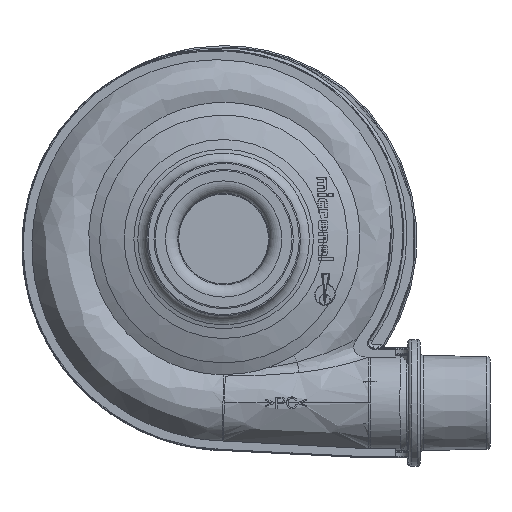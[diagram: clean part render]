
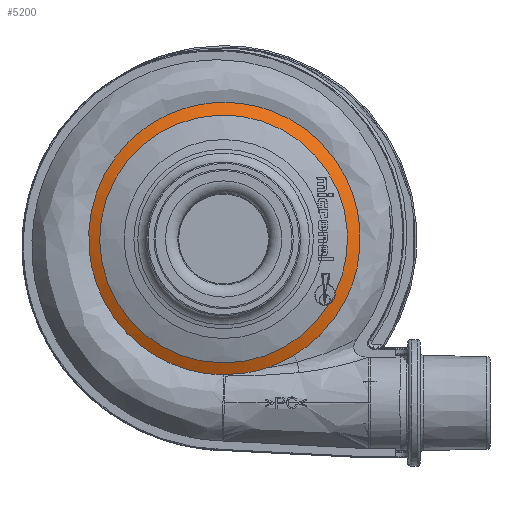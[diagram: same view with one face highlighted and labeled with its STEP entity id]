
A CAD part, left-side view. The second image highlights one B-rep face of the part: STEP entity #5200.
In plain terms, the highlighted conical face has half-angle 64.526 degrees and reference radius 19.542 mm.
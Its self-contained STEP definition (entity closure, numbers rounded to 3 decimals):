
#4299=CONICAL_SURFACE('',#13608,19.542,64.526);
#5200=ADVANCED_FACE('',(#6249,#6250),#4299,.T.);
#5862=B_SPLINE_CURVE_WITH_KNOTS('',3,(#17494,#17495,#17496,#17497,#17498,
#17499,#17500,#17501,#17502,#17503,#17504,#17505,#17506,#17507,#17508,#17509,
#17510,#17511,#17512,#17513,#17514,#17515,#17516,#17517,#17518,#17519,#17520,
#17521,#17522,#17523,#17524,#17525),.UNSPECIFIED.,.F.,.F.,(4,2,2,2,2,2,
2,1,1,2,2,2,2,2,2,2,4),(0.,0.125,0.25,0.375,
0.438,0.469,0.484,0.492,
0.496,0.498,0.5,0.625,
0.75,0.813,0.875,0.938,
1.),.UNSPECIFIED.);
#5923=B_SPLINE_CURVE_WITH_KNOTS('',3,(#18736,#18737,#18738,#18739),
 .UNSPECIFIED.,.F.,.F.,(4,4),(0.,1.),.UNSPECIFIED.);
#5926=B_SPLINE_CURVE_WITH_KNOTS('',3,(#18823,#18824,#18825,#18826),
 .UNSPECIFIED.,.F.,.F.,(4,4),(0.,1.),.UNSPECIFIED.);
#5927=B_SPLINE_CURVE_WITH_KNOTS('',3,(#18827,#18828,#18829,#18830,#18831,
#18832,#18833,#18834,#18835,#18836,#18837,#18838,#18839,#18840),
 .UNSPECIFIED.,.F.,.F.,(4,2,2,2,2,2,4),(0.,0.25,0.375,0.438,0.469,0.5,
1.),.UNSPECIFIED.);
#6249=FACE_BOUND('',#6424,.T.);
#6250=FACE_BOUND('',#6425,.T.);
#6424=EDGE_LOOP('',(#8041,#8042));
#6425=EDGE_LOOP('',(#8043,#8044,#8045));
#8041=ORIENTED_EDGE('',*,*,#11629,.T.);
#8042=ORIENTED_EDGE('',*,*,#11702,.T.);
#8043=ORIENTED_EDGE('',*,*,#11539,.F.);
#8044=ORIENTED_EDGE('',*,*,#11703,.T.);
#8045=ORIENTED_EDGE('',*,*,#11698,.T.);
#10642=VERTEX_POINT('',#17493);
#10643=VERTEX_POINT('',#17526);
#10717=VERTEX_POINT('',#18484);
#10718=VERTEX_POINT('',#18486);
#10778=VERTEX_POINT('',#18740);
#11539=EDGE_CURVE('',#10642,#10643,#5862,.T.);
#11629=EDGE_CURVE('',#10718,#10717,#12943,.T.);
#11698=EDGE_CURVE('',#10778,#10643,#5923,.T.);
#11702=EDGE_CURVE('',#10717,#10718,#5926,.T.);
#11703=EDGE_CURVE('',#10642,#10778,#5927,.T.);
#12943=CIRCLE('',#13562,19.542);
#13562=AXIS2_PLACEMENT_3D('',#18485,#14751,#14752);
#13608=AXIS2_PLACEMENT_3D('',#18841,#14854,#14855);
#14751=DIRECTION('',(1.,0.,0.));
#14752=DIRECTION('',(0.,0.,1.));
#14854=DIRECTION('',(1.,0.,0.));
#14855=DIRECTION('',(0.,0.,1.));
#17493=CARTESIAN_POINT('',(-7.296,0.232,-21.431));
#17494=CARTESIAN_POINT('',(-7.296,0.232,-21.431));
#17495=CARTESIAN_POINT('',(-7.313,4.916,-21.346));
#17496=CARTESIAN_POINT('',(-7.333,9.633,-19.623));
#17497=CARTESIAN_POINT('',(-7.37,17.165,-13.467));
#17498=CARTESIAN_POINT('',(-7.389,19.923,-8.98));
#17499=CARTESIAN_POINT('',(-7.404,21.857,1.018));
#17500=CARTESIAN_POINT('',(-7.388,20.993,6.51));
#17501=CARTESIAN_POINT('',(-7.337,16.875,13.423));
#17502=CARTESIAN_POINT('',(-7.318,15.041,15.497));
#17503=CARTESIAN_POINT('',(-7.291,11.754,18.007));
#17504=CARTESIAN_POINT('',(-7.283,10.569,18.742));
#17505=CARTESIAN_POINT('',(-7.272,8.687,19.666));
#17506=CARTESIAN_POINT('',(-7.268,8.042,19.945));
#17507=CARTESIAN_POINT('',(-7.264,7.053,20.314));
#17508=CARTESIAN_POINT('',(-7.262,6.554,20.488));
#17509=CARTESIAN_POINT('',(-7.259,5.962,20.668));
#17510=CARTESIAN_POINT('',(-7.258,5.707,20.741));
#17511=CARTESIAN_POINT('',(-7.258,5.537,20.788));
#17512=CARTESIAN_POINT('',(-7.257,5.413,20.822));
#17513=CARTESIAN_POINT('',(-7.247,2.376,21.626));
#17514=CARTESIAN_POINT('',(-7.243,-1.301,21.893));
#17515=CARTESIAN_POINT('',(-7.234,-9.199,19.936));
#17516=CARTESIAN_POINT('',(-7.232,-13.419,17.646));
#17517=CARTESIAN_POINT('',(-7.234,-18.268,11.76));
#17518=CARTESIAN_POINT('',(-7.235,-19.618,9.4));
#17519=CARTESIAN_POINT('',(-7.24,-21.359,4.064));
#17520=CARTESIAN_POINT('',(-7.243,-21.743,1.088));
#17521=CARTESIAN_POINT('',(-7.253,-21.156,-5.039));
#17522=CARTESIAN_POINT('',(-7.259,-20.177,-8.185));
#17523=CARTESIAN_POINT('',(-7.273,-16.698,-13.926));
#17524=CARTESIAN_POINT('',(-7.283,-14.187,-16.508));
#17525=CARTESIAN_POINT('',(-7.292,-11.055,-18.37));
#17526=CARTESIAN_POINT('',(-7.292,-11.056,-18.371));
#18484=CARTESIAN_POINT('',(-8.197,-17.518,-8.661));
#18485=CARTESIAN_POINT('',(-8.197,0.,0.));
#18486=CARTESIAN_POINT('',(-8.197,-16.663,-10.209));
#18736=CARTESIAN_POINT('',(-7.292,-6.8,-20.335));
#18737=CARTESIAN_POINT('',(-7.296,-8.283,-19.829));
#18738=CARTESIAN_POINT('',(-7.296,-9.711,-19.17));
#18739=CARTESIAN_POINT('',(-7.292,-11.056,-18.372));
#18740=CARTESIAN_POINT('',(-7.292,-6.8,-20.335));
#18823=CARTESIAN_POINT('',(-8.197,-17.518,-8.661));
#18824=CARTESIAN_POINT('',(-8.066,-17.524,-9.268));
#18825=CARTESIAN_POINT('',(-8.064,-17.178,-9.9));
#18826=CARTESIAN_POINT('',(-8.197,-16.663,-10.209));
#18827=CARTESIAN_POINT('',(-7.296,0.232,-21.431));
#18828=CARTESIAN_POINT('',(-7.309,-0.236,-21.41));
#18829=CARTESIAN_POINT('',(-7.317,-0.766,-21.384));
#18830=CARTESIAN_POINT('',(-7.321,-1.657,-21.317));
#18831=CARTESIAN_POINT('',(-7.322,-1.969,-21.29));
#18832=CARTESIAN_POINT('',(-7.321,-2.462,-21.239));
#18833=CARTESIAN_POINT('',(-7.32,-2.63,-21.22));
#18834=CARTESIAN_POINT('',(-7.319,-2.887,-21.189));
#18835=CARTESIAN_POINT('',(-7.318,-2.974,-21.178));
#18836=CARTESIAN_POINT('',(-7.317,-3.15,-21.156));
#18837=CARTESIAN_POINT('',(-7.317,-3.204,-21.149));
#18838=CARTESIAN_POINT('',(-7.299,-5.323,-20.853));
#18839=CARTESIAN_POINT('',(-7.291,-6.458,-20.451));
#18840=CARTESIAN_POINT('',(-7.292,-6.801,-20.335));
#18841=CARTESIAN_POINT('',(-8.197,0.,0.));
